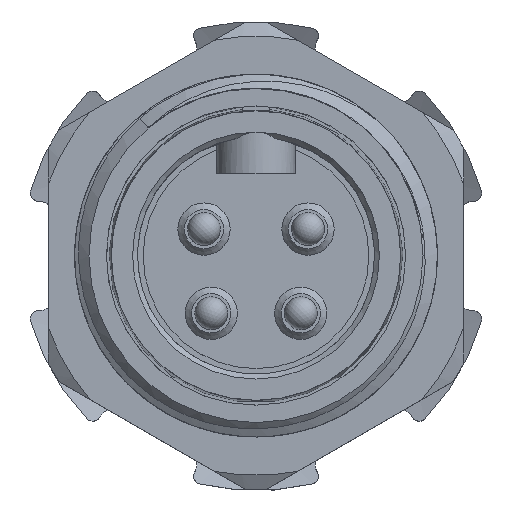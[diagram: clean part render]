
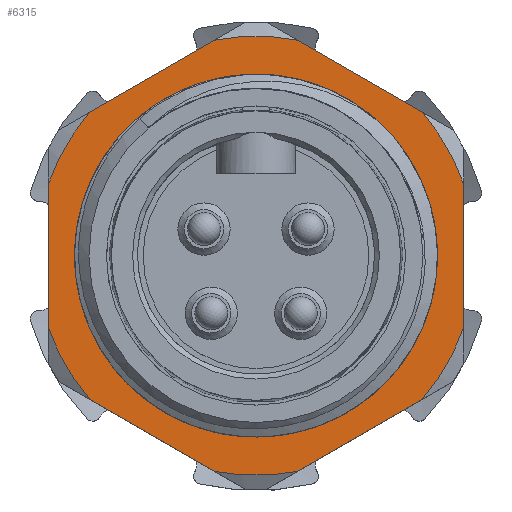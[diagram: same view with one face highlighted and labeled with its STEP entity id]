
A CAD part, top view. The second image highlights one B-rep face of the part: STEP entity #6315.
In plain terms, the highlighted planar face has unit normal (0, 0, 1).
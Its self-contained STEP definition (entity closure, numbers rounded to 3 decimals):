
#144 = AXIS2_PLACEMENT_3D ( 'NONE', #7497, #8409, #2492 ) ;
#298 = CARTESIAN_POINT ( 'NONE',  ( 0., 0., -8. ) ) ;
#637 = LINE ( 'NONE', #7300, #1015 ) ;
#836 = LINE ( 'NONE', #1900, #2559 ) ;
#978 = EDGE_LOOP ( 'NONE', ( #9299, #6621, #1677, #4754, #2325, #2118, #10359, #7667, #2431, #4800, #4916, #7677 ) ) ;
#1015 = VECTOR ( 'NONE', #8173, 1000. ) ;
#1023 = DIRECTION ( 'NONE',  ( 0., -1., 0. ) ) ;
#1059 = VERTEX_POINT ( 'NONE', #1813 ) ;
#1204 = EDGE_LOOP ( 'NONE', ( #3141 ) ) ;
#1271 = CARTESIAN_POINT ( 'NONE',  ( -10.143, -8.809, -8. ) ) ;
#1313 = DIRECTION ( 'NONE',  ( 1., 0., 0. ) ) ;
#1440 = EDGE_CURVE ( 'NONE', #4987, #6735, #6148, .T. ) ;
#1627 = AXIS2_PLACEMENT_3D ( 'NONE', #1647, #6530, #4066 ) ;
#1647 = CARTESIAN_POINT ( 'NONE',  ( 0., 0., -8. ) ) ;
#1669 = EDGE_CURVE ( 'NONE', #8843, #6735, #637, .T. ) ;
#1677 = ORIENTED_EDGE ( 'NONE', *, *, #1440, .T. ) ;
#1774 = CIRCLE ( 'NONE', #8383, 13.434 ) ;
#1813 = CARTESIAN_POINT ( 'NONE',  ( 10.143, -8.809, -8. ) ) ;
#1842 = DIRECTION ( 'NONE',  ( 0.866, 0.5, 0. ) ) ;
#1900 = CARTESIAN_POINT ( 'NONE',  ( -12.042, -7.712, -8. ) ) ;
#2053 = CARTESIAN_POINT ( 'NONE',  ( 0., 0., -8. ) ) ;
#2056 = FACE_BOUND ( 'NONE', #1204, .T. ) ;
#2118 = ORIENTED_EDGE ( 'NONE', *, *, #7447, .F. ) ;
#2325 = ORIENTED_EDGE ( 'NONE', *, *, #7277, .T. ) ;
#2431 = ORIENTED_EDGE ( 'NONE', *, *, #6297, .T. ) ;
#2492 = DIRECTION ( 'NONE',  ( 1., 0., 0. ) ) ;
#2559 = VECTOR ( 'NONE', #3580, 1000. ) ;
#2598 = CIRCLE ( 'NONE', #7758, 13.434 ) ;
#2646 = CARTESIAN_POINT ( 'NONE',  ( -10.143, 8.809, -8. ) ) ;
#2802 = VERTEX_POINT ( 'NONE', #10769 ) ;
#3031 = AXIS2_PLACEMENT_3D ( 'NONE', #6996, #9507, #6932 ) ;
#3141 = ORIENTED_EDGE ( 'NONE', *, *, #7904, .F. ) ;
#3499 = VECTOR ( 'NONE', #1023, 1000. ) ;
#3580 = DIRECTION ( 'NONE',  ( -0.866, 0.5, 0. ) ) ;
#3583 = AXIS2_PLACEMENT_3D ( 'NONE', #3585, #9474, #4425 ) ;
#3585 = CARTESIAN_POINT ( 'NONE',  ( 0., 9.9, -8. ) ) ;
#3743 = VECTOR ( 'NONE', #10537, 1000. ) ;
#3794 = CARTESIAN_POINT ( 'NONE',  ( 12.7, 4.38, -8. ) ) ;
#4004 = LINE ( 'NONE', #5185, #6653 ) ;
#4066 = DIRECTION ( 'NONE',  ( 1., 0., 0. ) ) ;
#4119 = DIRECTION ( 'NONE',  ( 1., 0., 0. ) ) ;
#4231 = CARTESIAN_POINT ( 'NONE',  ( 10.143, 8.809, -8. ) ) ;
#4255 = VECTOR ( 'NONE', #5936, 1000. ) ;
#4343 = AXIS2_PLACEMENT_3D ( 'NONE', #7239, #10773, #4119 ) ;
#4425 = DIRECTION ( 'NONE',  ( -1., 0., 0. ) ) ;
#4437 = DIRECTION ( 'NONE',  ( 0., 0., 1. ) ) ;
#4507 = DIRECTION ( 'NONE',  ( 1., 0., 0. ) ) ;
#4536 = CARTESIAN_POINT ( 'NONE',  ( -12.7, 4.38, -8. ) ) ;
#4681 = LINE ( 'NONE', #7004, #3499 ) ;
#4754 = ORIENTED_EDGE ( 'NONE', *, *, #1669, .F. ) ;
#4800 = ORIENTED_EDGE ( 'NONE', *, *, #9410, .F. ) ;
#4892 = VERTEX_POINT ( 'NONE', #1271 ) ;
#4916 = ORIENTED_EDGE ( 'NONE', *, *, #7578, .T. ) ;
#4987 = VERTEX_POINT ( 'NONE', #3794 ) ;
#5185 = CARTESIAN_POINT ( 'NONE',  ( -0.658, 14.285, -8. ) ) ;
#5410 = EDGE_CURVE ( 'NONE', #1059, #2802, #2598, .T. ) ;
#5471 = CIRCLE ( 'NONE', #10551, 13.434 ) ;
#5508 = VERTEX_POINT ( 'NONE', #2646 ) ;
#5536 = EDGE_CURVE ( 'NONE', #4987, #2802, #4681, .T. ) ;
#5588 = CIRCLE ( 'NONE', #1627, 9.9 ) ;
#5678 = CARTESIAN_POINT ( 'NONE',  ( -2.557, 13.188, -8. ) ) ;
#5936 = DIRECTION ( 'NONE',  ( -0.866, -0.5, 0. ) ) ;
#6148 = CIRCLE ( 'NONE', #4343, 13.434 ) ;
#6266 = DIRECTION ( 'NONE',  ( 0., 0., 1. ) ) ;
#6297 = EDGE_CURVE ( 'NONE', #7389, #4892, #7967, .T. ) ;
#6315 = ADVANCED_FACE ( 'NONE', ( #2056, #7039 ), #8618, .F. ) ;
#6367 = EDGE_CURVE ( 'NONE', #5508, #10201, #5471, .T. ) ;
#6530 = DIRECTION ( 'NONE',  ( 0., 0., 1. ) ) ;
#6621 = ORIENTED_EDGE ( 'NONE', *, *, #5536, .F. ) ;
#6653 = VECTOR ( 'NONE', #1842, 1000. ) ;
#6715 = CARTESIAN_POINT ( 'NONE',  ( 12.042, -7.712, -8. ) ) ;
#6735 = VERTEX_POINT ( 'NONE', #4231 ) ;
#6932 = DIRECTION ( 'NONE',  ( 1., 0., 0. ) ) ;
#6996 = CARTESIAN_POINT ( 'NONE',  ( 0., 0., -8. ) ) ;
#7004 = CARTESIAN_POINT ( 'NONE',  ( 12.7, 6.573, -8. ) ) ;
#7039 = FACE_OUTER_BOUND ( 'NONE', #978, .T. ) ;
#7239 = CARTESIAN_POINT ( 'NONE',  ( 0., 0., -8. ) ) ;
#7277 = EDGE_CURVE ( 'NONE', #8843, #7926, #10704, .T. ) ;
#7300 = CARTESIAN_POINT ( 'NONE',  ( 0.658, 14.285, -8. ) ) ;
#7389 = VERTEX_POINT ( 'NONE', #8630 ) ;
#7447 = EDGE_CURVE ( 'NONE', #5508, #7926, #4004, .T. ) ;
#7497 = CARTESIAN_POINT ( 'NONE',  ( 0., 0., -8. ) ) ;
#7578 = EDGE_CURVE ( 'NONE', #10707, #8332, #1774, .T. ) ;
#7667 = ORIENTED_EDGE ( 'NONE', *, *, #7764, .F. ) ;
#7677 = ORIENTED_EDGE ( 'NONE', *, *, #9122, .F. ) ;
#7758 = AXIS2_PLACEMENT_3D ( 'NONE', #298, #4437, #4507 ) ;
#7764 = EDGE_CURVE ( 'NONE', #7389, #10201, #8202, .T. ) ;
#7904 = EDGE_CURVE ( 'NONE', #8498, #8498, #5588, .T. ) ;
#7925 = DIRECTION ( 'NONE',  ( 1., 0., 0. ) ) ;
#7926 = VERTEX_POINT ( 'NONE', #5678 ) ;
#7967 = CIRCLE ( 'NONE', #3031, 13.434 ) ;
#8173 = DIRECTION ( 'NONE',  ( 0.866, -0.5, 0. ) ) ;
#8202 = LINE ( 'NONE', #8842, #3743 ) ;
#8234 = CARTESIAN_POINT ( 'NONE',  ( -2.557, -13.188, -8. ) ) ;
#8332 = VERTEX_POINT ( 'NONE', #9558 ) ;
#8383 = AXIS2_PLACEMENT_3D ( 'NONE', #2053, #10433, #7925 ) ;
#8409 = DIRECTION ( 'NONE',  ( 0., 0., 1. ) ) ;
#8480 = CARTESIAN_POINT ( 'NONE',  ( 9.9, 0., -8. ) ) ;
#8498 = VERTEX_POINT ( 'NONE', #8480 ) ;
#8618 = PLANE ( 'NONE',  #3583 ) ;
#8630 = CARTESIAN_POINT ( 'NONE',  ( -12.7, -4.38, -8. ) ) ;
#8842 = CARTESIAN_POINT ( 'NONE',  ( -12.7, 6.573, -8. ) ) ;
#8843 = VERTEX_POINT ( 'NONE', #9101 ) ;
#8850 = LINE ( 'NONE', #6715, #4255 ) ;
#9101 = CARTESIAN_POINT ( 'NONE',  ( 2.557, 13.188, -8. ) ) ;
#9122 = EDGE_CURVE ( 'NONE', #1059, #8332, #8850, .T. ) ;
#9299 = ORIENTED_EDGE ( 'NONE', *, *, #5410, .T. ) ;
#9410 = EDGE_CURVE ( 'NONE', #10707, #4892, #836, .T. ) ;
#9474 = DIRECTION ( 'NONE',  ( 0., 0., -1. ) ) ;
#9507 = DIRECTION ( 'NONE',  ( 0., 0., 1. ) ) ;
#9558 = CARTESIAN_POINT ( 'NONE',  ( 2.557, -13.188, -8. ) ) ;
#9698 = CARTESIAN_POINT ( 'NONE',  ( 0., 0., -8. ) ) ;
#10201 = VERTEX_POINT ( 'NONE', #4536 ) ;
#10359 = ORIENTED_EDGE ( 'NONE', *, *, #6367, .T. ) ;
#10433 = DIRECTION ( 'NONE',  ( 0., 0., 1. ) ) ;
#10537 = DIRECTION ( 'NONE',  ( 0., 1., 0. ) ) ;
#10551 = AXIS2_PLACEMENT_3D ( 'NONE', #9698, #6266, #1313 ) ;
#10704 = CIRCLE ( 'NONE', #144, 13.434 ) ;
#10707 = VERTEX_POINT ( 'NONE', #8234 ) ;
#10769 = CARTESIAN_POINT ( 'NONE',  ( 12.7, -4.38, -8. ) ) ;
#10773 = DIRECTION ( 'NONE',  ( 0., 0., 1. ) ) ;
